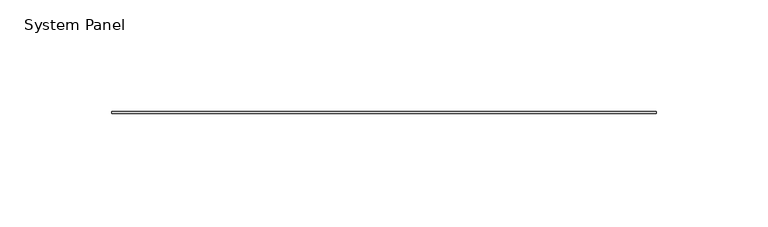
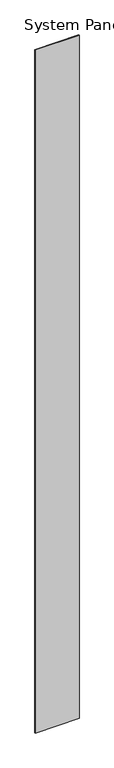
"""IFC4 building model written with IfcOpenShell, lengths in millimetres: plate geometry, System Panel : Stratco_Hiland_Interlock_Panel."""

import ifcopenshell
import ifcopenshell.guid

model = None  # the IFC model being written
_history = None  # IfcOwnerHistory: only IFC2X3 demands one
_inside = {}  # id of a spatial element -> (the spatial element, [elements in it])
_under = {}  # id of a project, library or spatial element -> (it, [spatial elements below it])
_declared = {}  # id of a project -> (the project, [libraries it declares])
_typed = {}  # id of a type object -> (the type object, [elements of that type])
_made_of = {}  # id of a material, layer set ... -> (it, [elements and type objects made of it])


def new_model(schema):
    """Start an empty IFC model of exactly this schema.

    Asked for "IFC4X3", IfcOpenShell would pick the latest addendum, in which some entities
    have other attributes; the version numbers below select the first issue.
    IFC2X3 requires an IfcOwnerHistory on every rooted entity: one is made here for all.
    """
    global model, _history
    if schema == "IFC4X3":
        model = ifcopenshell.file(schema_version=(4, 3, 0, 0))
    else:
        model = ifcopenshell.file(schema=schema)
    _inside.clear()
    _under.clear()
    _declared.clear()
    _typed.clear()
    _made_of.clear()
    _history = None
    if model.schema == "IFC2X3":
        org = make("IfcOrganization", Name="unknown")
        user = make(
            "IfcPersonAndOrganization",
            ThePerson=make("IfcPerson", FamilyName="unknown"),
            TheOrganization=org,
        )
        app = make(
            "IfcApplication",
            ApplicationDeveloper=org,
            Version="unknown",
            ApplicationFullName="unknown",
            ApplicationIdentifier="unknown",
        )
        _history = make(
            "IfcOwnerHistory",
            OwningUser=user,
            OwningApplication=app,
            ChangeAction="ADDED",
            CreationDate=0,
        )
    return model


def make(cls, **values):
    """One entity of the class cls with the attributes given. An attribute that is None is left unset."""
    return model.create_entity(
        cls, **{name: value for name, value in values.items() if value is not None}
    )


def rooted(cls, **values):
    """An entity with a GlobalId (a new one), such as an element, a storey or a relation."""
    return make(cls, GlobalId=ifcopenshell.guid.new(), OwnerHistory=_history, **values)


def si_unit(unit_type, name, prefix=None):
    """IfcSIUnit, for example si_unit("LENGTHUNIT", "METRE", prefix="MILLI")."""
    return make("IfcSIUnit", UnitType=unit_type, Prefix=prefix, Name=name)


def assignment(units):
    """IfcUnitAssignment: the units of a project."""
    return None if units is None else make("IfcUnitAssignment", Units=units)


def point(xyz):
    """IfcCartesianPoint."""
    return None if xyz is None else make("IfcCartesianPoint", Coordinates=xyz)


def direction(xyz):
    """IfcDirection."""
    return None if xyz is None else make("IfcDirection", DirectionRatios=xyz)


def frame(location, z_axis=None, x_axis=None):
    """IfcAxis2Placement3D, a coordinate frame: its origin and axes. An axis left out is left unset."""
    return make(
        "IfcAxis2Placement3D",
        Location=point(location),
        Axis=direction(z_axis),
        RefDirection=direction(x_axis),
    )


def origin():
    """The frame at (0, 0, 0) with its axes left unset."""
    return frame((0.0, 0.0, 0.0))


def origin_with_axes():
    """The frame at (0, 0, 0) with the z axis (0, 0, 1) and the x axis (1, 0, 0) written out."""
    return frame((0.0, 0.0, 0.0), z_axis=(0.0, 0.0, 1.0), x_axis=(1.0, 0.0, 0.0))


def place(relative_to, where):
    """IfcLocalPlacement: puts the frame where relative to a parent placement (None: the world)."""
    return make(
        "IfcLocalPlacement", PlacementRelTo=relative_to, RelativePlacement=where
    )


def context(
    kind, dimensions, precision=None, world=None, true_north=None, identifier=None
):
    """IfcGeometricRepresentationContext, for example the 3D "Model" context."""
    return make(
        "IfcGeometricRepresentationContext",
        ContextIdentifier=identifier,
        ContextType=kind,
        CoordinateSpaceDimension=dimensions,
        Precision=precision,
        WorldCoordinateSystem=world,
        TrueNorth=true_north,
    )


def project(units=None, contexts=None):
    """IfcProject with its units and contexts."""
    return rooted(
        "IfcProject",
        Name="project",
        RepresentationContexts=contexts,
        UnitsInContext=assignment(units),
    )


def spatial(cls, under=None, at=None, **own):
    """A site, building, storey or space (cls), placed at a placement, below another one or the project."""
    s = rooted(cls, ObjectPlacement=at, **own)
    if under is not None:
        _under.setdefault(under.id(), (under, []))[1].append(s)
    return s


def polyline(points):
    """IfcPolyline through the points."""
    return make("IfcPolyline", Points=[point(p) for p in points])


def outline(outer, holes=None, kind="AREA"):
    """IfcArbitraryClosedProfileDef: a profile drawn as a closed curve; with holes, ...WithVoids."""
    if holes is None:
        return make("IfcArbitraryClosedProfileDef", ProfileType=kind, OuterCurve=outer)
    return make(
        "IfcArbitraryProfileDefWithVoids",
        ProfileType=kind,
        OuterCurve=outer,
        InnerCurves=holes,
    )


def extrude(swept, where, along, depth):
    """IfcExtrudedAreaSolid: the profile swept, set in the frame where, extruded along a direction by depth."""
    return make(
        "IfcExtrudedAreaSolid",
        SweptArea=swept,
        Position=where,
        ExtrudedDirection=direction(along),
        Depth=depth,
    )


def shape(context_of_items, identifier, shape_type, items):
    """IfcShapeRepresentation: the items that make up one representation, for example the "Body"."""
    return make(
        "IfcShapeRepresentation",
        ContextOfItems=context_of_items,
        RepresentationIdentifier=identifier,
        RepresentationType=shape_type,
        Items=items,
    )


def source(mapping_origin, context_of_items, identifier, shape_type, items):
    """IfcRepresentationMap: a shape defined once, which mapped items show again and again."""
    return make(
        "IfcRepresentationMap",
        MappingOrigin=mapping_origin,
        MappedRepresentation=shape(context_of_items, identifier, shape_type, items),
    )


def transform(
    local_origin,
    x_axis=None,
    y_axis=None,
    z_axis=None,
    scale=None,
    scale2=None,
    scale3=None,
    uniform=True,
):
    """IfcCartesianTransformationOperator3D, or its non-uniform kind. x_axis, y_axis, z_axis: its Axis1, 2, 3."""
    if uniform:
        return make(
            "IfcCartesianTransformationOperator3D",
            Axis1=direction(x_axis),
            Axis2=direction(y_axis),
            LocalOrigin=point(local_origin),
            Scale=scale,
            Axis3=direction(z_axis),
        )
    return make(
        "IfcCartesianTransformationOperator3DnonUniform",
        Axis1=direction(x_axis),
        Axis2=direction(y_axis),
        LocalOrigin=point(local_origin),
        Scale=scale,
        Axis3=direction(z_axis),
        Scale2=scale2,
        Scale3=scale3,
    )


def mapped(mapping_source, mapping_target):
    """IfcMappedItem: shows the shape of a source again, moved by a transform."""
    return make(
        "IfcMappedItem", MappingSource=mapping_source, MappingTarget=mapping_target
    )


def made_of(thing, what):
    """Note that an element or type object is made of a material, layer set ...; save() writes the relation."""
    if what is not None:
        _made_of.setdefault(what.id(), (what, []))[1].append(thing)
    return thing


def element(
    cls,
    number,
    at=None,
    inside=None,
    cuts=None,
    type_object=None,
    material=None,
    context=None,
    identifier="Body",
    shape_type=None,
    held_by="IfcProductDefinitionShape",
    body=None,
    shapes=None,
    **own,
):
    """One element of the class cls, such as IfcWall. Its Tag is "e" and its number.

    at: its placement. inside: the storey or other place that contains it. cuts: it is an
    opening in that element (IfcRelVoidsElement). A single representation is given by context,
    identifier, shape_type and body (its items); several are given by shapes. held_by: the class
    of the entity that holds the representations. save() writes the other relations.
    """
    e = rooted(cls, Tag="e%d" % number, ObjectPlacement=at, **own)
    if body is not None:
        shapes = [shape(context, identifier, shape_type, body)]
    if shapes is not None:
        e.Representation = make(held_by, Representations=shapes)
    if inside is not None:
        _inside.setdefault(inside.id(), (inside, []))[1].append(e)
    if cuts is not None:
        rooted(
            "IfcRelVoidsElement", RelatingBuildingElement=cuts, RelatedOpeningElement=e
        )
    if type_object is not None:
        _typed.setdefault(type_object.id(), (type_object, []))[1].append(e)
    return made_of(e, material)


def aggregate(whole, parts):
    """IfcRelAggregates: a whole, such as a stair, and the parts it consists of."""
    return rooted("IfcRelAggregates", RelatingObject=whole, RelatedObjects=parts)


def save(model, path):
    """Write the relations noted so far, then the file.

    IfcRelAggregates (storeys below a building ...), IfcRelContainedInSpatialStructure (elements
    in a storey), IfcRelDefinesByType, IfcRelAssociatesMaterial and IfcRelDeclares: one each for
    every whole, place, type object, material and project.
    """
    for whole, parts in _under.values():
        aggregate(whole, parts)
    for where, things in _inside.values():
        rooted(
            "IfcRelContainedInSpatialStructure",
            RelatedElements=things,
            RelatingStructure=where,
        )
    for kind, things in _typed.values():
        rooted("IfcRelDefinesByType", RelatedObjects=things, RelatingType=kind)
    for what, things in _made_of.values():
        rooted("IfcRelAssociatesMaterial", RelatedObjects=things, RelatingMaterial=what)
    for by, libraries in _declared.values():
        rooted("IfcRelDeclares", RelatingContext=by, RelatedDefinitions=libraries)
    model.write(path)


def system_panel_82cc9cf0(model_context):
    return source(origin(), model_context, "Body", "SweptSolid", [
        extrude(outline(polyline([(121.9514014, 24.0), (-121.9514014, 24.0), (-121.9514014, 25.0), (121.9514014, 25.0), (121.9514014, 24.0)])), origin_with_axes(), (0.0, 0.0, 1.0), 4000.0),
    ])


if __name__ == "__main__":
    model = new_model("IFC4")
    model_context = context("Model", 3, world=origin())
    ifc_project = project(units=[si_unit("LENGTHUNIT", "METRE", prefix="MILLI")], contexts=[model_context])
    site = spatial("IfcSite", under=ifc_project)
    building = spatial("IfcBuilding", under=site)
    placement = place(None, origin())
    system_panel_shape = system_panel_82cc9cf0(model_context)
    element("IfcPlate", 1, ObjectType="System Panel : Stratco_Hiland_Interlock_Panel", at=placement, inside=building, context=model_context, shape_type="MappedRepresentation", body=[
        mapped(system_panel_shape, transform((0.0, 0.0, 0.0), x_axis=(1.0, 0.0, 0.0), y_axis=(0.0, 1.0, 0.0), z_axis=(0.0, 0.0, 1.0))),
    ])
    save(model, "model.ifc")
